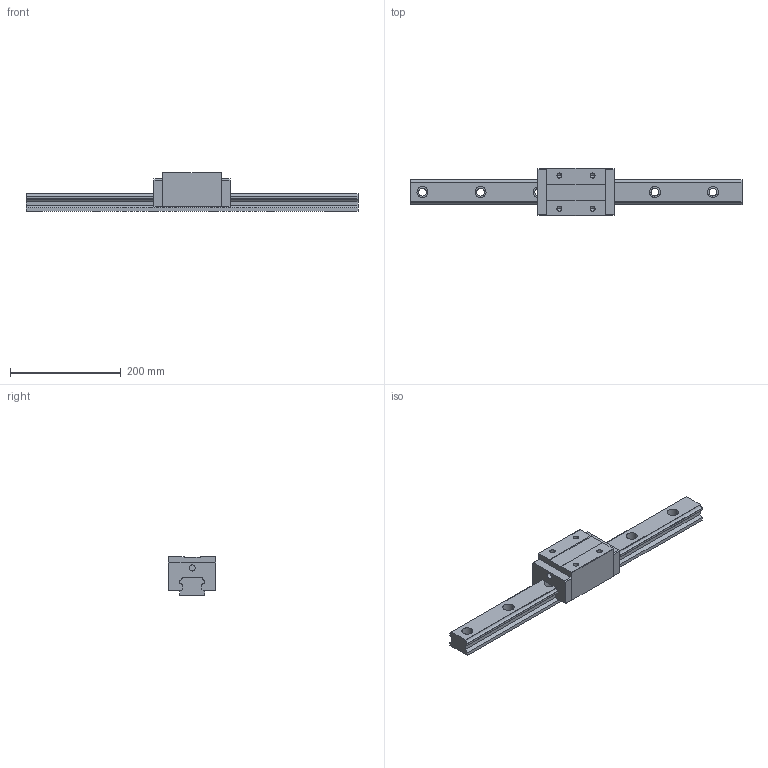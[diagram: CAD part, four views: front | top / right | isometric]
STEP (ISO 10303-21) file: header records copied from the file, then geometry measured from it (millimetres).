
FILE_DESCRIPTION (( 'STEP AP203' ), '1' );
FILE_NAME ('TRH45VL-XNC.STEP', '2024-08-16T06:51:17', ( '' ), ( '' ), 'SwSTEP 2.0', 'SolidWorks 2021', '' );
FILE_SCHEMA (( 'CONFIG_CONTROL_DESIGN' ));
Length unit declared in the file: millimetre
Products named in the file (1): TRH45VL-XNC
Bounding box: 600 x 85.5 x 70 mm (x, y, z)
Volume: 1267901.5 mm3; surface area: 159470.6 mm2
Topology: 1 solids, 1 shells, 161 faces, 444 edges, 286 vertices
Faces by surface type: plane 73, cylinder 72, cone 16
Entity records: 5197 total; most frequent: DIRECTION 914, CARTESIAN_POINT 884, ORIENTED_EDGE 872, EDGE_CURVE 436, AXIS2_PLACEMENT_3D 316, VERTEX_POINT 286, VECTOR 282, LINE 282
